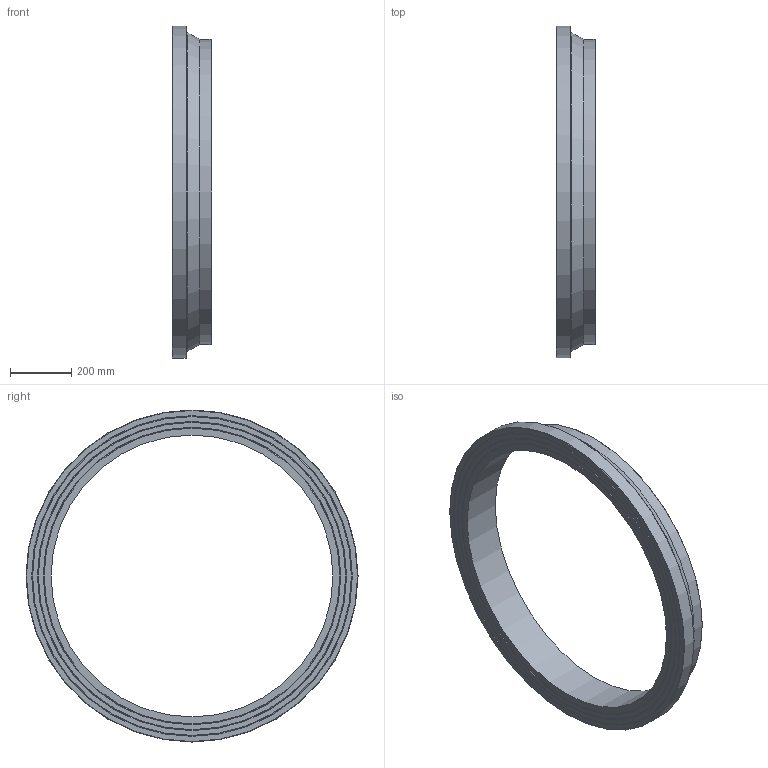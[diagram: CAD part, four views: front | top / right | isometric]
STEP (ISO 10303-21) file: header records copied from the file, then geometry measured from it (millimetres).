
FILE_DESCRIPTION(/* description */ ('Unknown'),/* implementation_level */ '2;1');
FILE_NAME(/* name */ 'CCP1000A',/* time_stamp */ '2022-04-05T11:04:50+02:00',/* author */ ('Unknown'),/* organization */ ('Unknown'),/* preprocessor_version */ 'ST-DEVELOPER v18.1',/* originating_system */ 'Solid Edge',/* authorisation */ 'Unknown');
FILE_SCHEMA (('AUTOMOTIVE_DESIGN {1 0 10303 214 3 1 1}'));
Length unit declared in the file: millimetre
Products named in the file (1): CCP1000A
Bounding box: 130 x 1088 x 1088 mm (x, y, z)
Volume: 23378997.1 mm3; surface area: 1258195.2 mm2
Topology: 1 solids, 1 shells, 20 faces, 35 edges, 21 vertices
Faces by surface type: cone 10, plane 6, cylinder 3, torus 1
Full cylindrical faces by diameter (mm): 923.6 x1, 1000 x1, 1088 x1
Entity records: 438 total; most frequent: DIRECTION 82, CARTESIAN_POINT 61, AXIS2_PLACEMENT_3D 41, ORIENTED_EDGE 40, EDGE_LOOP 40, FACE_BOUND 40, EDGE_CURVE 20, VERTEX_POINT 20
